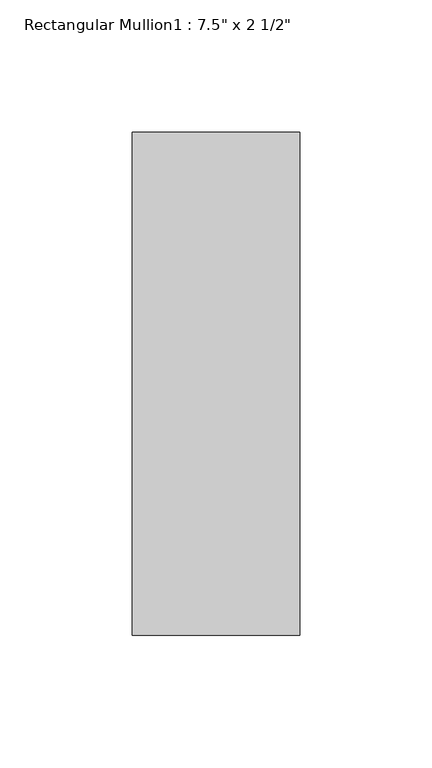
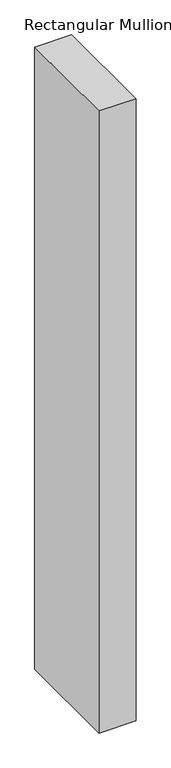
"""IFC4 building model written with IfcOpenShell, lengths in millimetres: member geometry."""

from ifc_helpers import new_model, si_unit, frame, origin, place, context, project, spatial, polyline, outline, extrude, source, transform, mapped, element, save


def member_3f6f66ae(model_context):
    return source(origin(), model_context, "Body", "SweptSolid", [
        extrude(outline(polyline([(-63.5, 165.1), (0.0, 165.1), (0.0, -25.4), (-63.5, -25.4), (-63.5, 165.1)])), frame((0.0, 0.0, -1127.1250029), z_axis=(0.0, 0.0, 1.0), x_axis=(1.0, 0.0, 0.0)), (0.0, 0.0, 1.0), 1127.1250029),
    ])


if __name__ == "__main__":
    model = new_model("IFC4")
    model_context = context("Model", 3, world=origin())
    ifc_project = project(units=[si_unit("LENGTHUNIT", "METRE", prefix="MILLI")], contexts=[model_context])
    site = spatial("IfcSite", under=ifc_project)
    building = spatial("IfcBuilding", under=site)
    placement = place(None, origin())
    member_shape = member_3f6f66ae(model_context)
    element("IfcMember", 1, ObjectType="Rectangular Mullion1 : 7.5\" x 2 1/2\"", at=placement, inside=building, context=model_context, shape_type="MappedRepresentation", body=[
        mapped(member_shape, transform((0.0, 0.0, 0.0), x_axis=(1.0, 0.0, 0.0), y_axis=(0.0, 1.0, 0.0), z_axis=(0.0, 0.0, 1.0))),
    ])
    save(model, "model.ifc")
